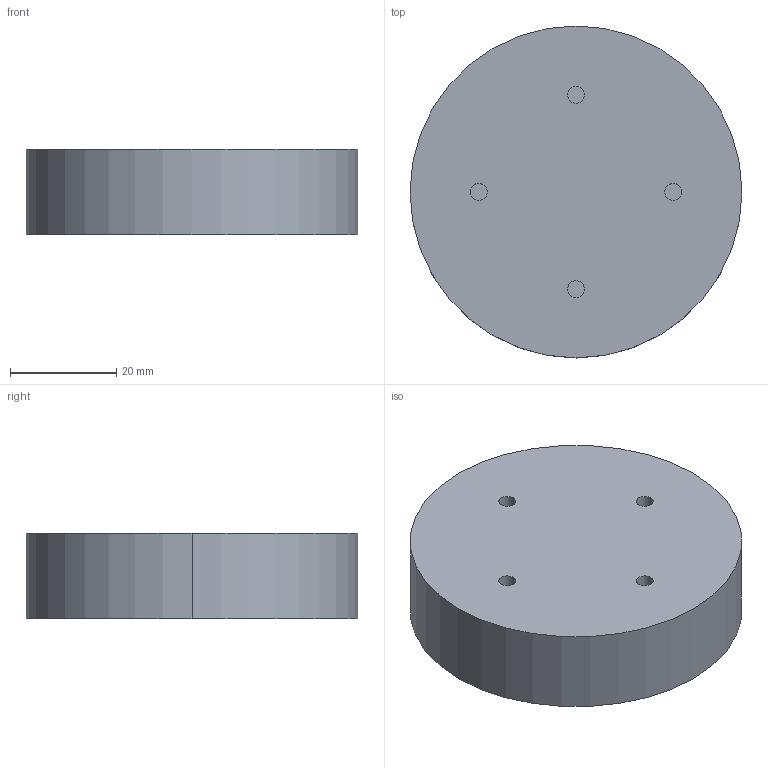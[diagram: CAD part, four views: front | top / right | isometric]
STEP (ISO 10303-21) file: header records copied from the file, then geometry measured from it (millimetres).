
FILE_DESCRIPTION (( 'STEP AP214' ), '1' );
FILE_NAME ('top-check-plug.STEP', '2012-12-06T15:58:52', ( '' ), ( '' ), 'SwSTEP 2.0', 'SolidWorks 2012', '' );
FILE_SCHEMA (( 'AUTOMOTIVE_DESIGN' ));
Length unit declared in the file: inch
Products named in the file (1): top-check-plug
Bounding box: 62.33 x 62.33 x 16.05 mm (x, y, z)
Volume: 48582.1 mm3; surface area: 9753.1 mm2
Topology: 1 solids, 1 shells, 16 faces, 30 edges, 20 vertices
Faces by surface type: cylinder 10, plane 6
Entity records: 493 total; most frequent: DIRECTION 84, CARTESIAN_POINT 67, ORIENTED_EDGE 60, AXIS2_PLACEMENT_3D 37, EDGE_CURVE 30, CIRCLE 20, EDGE_LOOP 20, VERTEX_POINT 20
